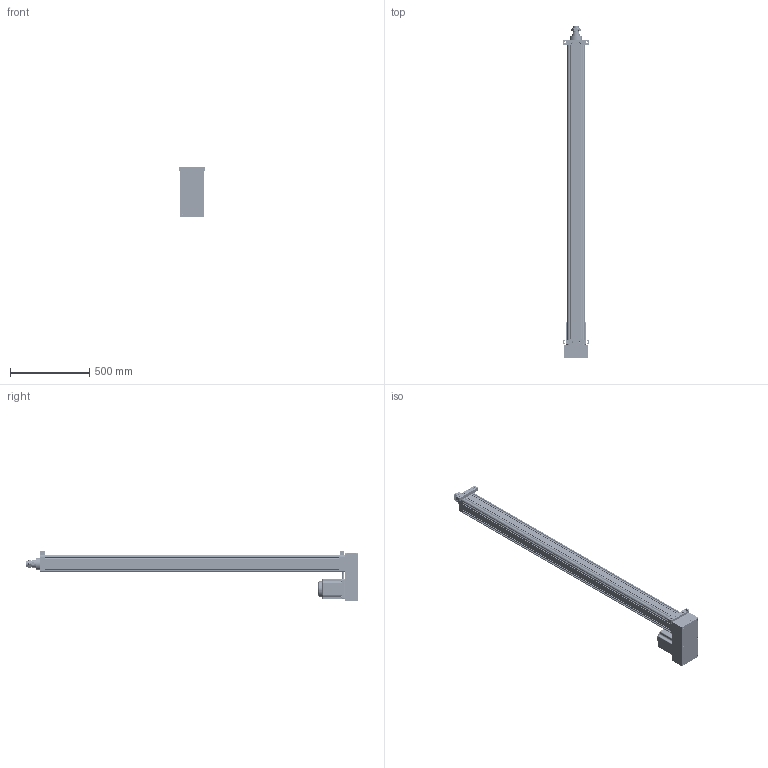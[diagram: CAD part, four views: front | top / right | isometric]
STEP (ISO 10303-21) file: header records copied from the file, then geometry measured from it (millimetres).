
FILE_DESCRIPTION((''),'2;1');
FILE_NAME('HE100-D-P_ASM','2020-05-06T',('ASUS20200'),(''),'CREO PARAMETRIC BY PTC INC, 2014190','CREO PARAMETRIC BY PTC INC, 2014190','');
FILE_SCHEMA(('CONFIG_CONTROL_DESIGN'));
Products named in the file (46): HE100-D-P-001-X1; HE100-D-P-002-X1; HE100-D-P-003-X1; 30305J; SFNHR03205B1-001-X1; SFNHR03205B1-002-X1; SFNHR03205B1-ST_ASM; HE100-D-P-004-X1; HE100-D-P-006-X1; HE100-D-P-007-X2; HE100-D-P-007-X1-2; M3X8-PB; HE100-D-P-HST_ASM; HE100-D-P-005-X1; TD-8; M8X30; LGLM-M10-25; K-M25X1-5P-36; JX6X6X30; JDB506030; HE80-D-P-008-X1; SLM-01; YZ-M6X1; HE100-GT2535-17; HE100-100-D-P-X1_ASM; HE100-P-010-X1-130N; 130ST-M10010; HE100-P-S8M300-32-20K6; HE100-P-012-X1; M10X25; HE100-P-009-X1-130N; HE100-P-013-X1-130N; M8X35; M8X75; LM-M8-7-5; HE100-P-S8M300-32-40; HE100-P-S8M-576-30; M10X1-25-40; LM-M10-30; LM-M10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
Assembly tree (91 placements, depth 4):
  HE100-D-P_ASM
    HE100-100-D-P-X1_ASM
      HE100-D-P-001-X1
      HE100-D-P-002-X1
      HE100-D-P-003-X1
      30305J  x2
      SFNHR03205B1-ST_ASM
        SFNHR03205B1-001-X1
        SFNHR03205B1-002-X1
      HE100-D-P-HST_ASM
        HE100-D-P-004-X1
        HE100-D-P-006-X1
        HE100-D-P-007-X2
        HE100-D-P-007-X1-2
        M3X8-PB  x5
      HE100-D-P-005-X1
      TD-8  x6
      M8X30  x6
      LGLM-M10-25  x8
      K-M25X1-5P-36
      JX6X6X30
      JDB506030
      HE80-D-P-008-X1
      SLM-01
      YZ-M6X1
      HE100-GT2535-17
    HE100-P-010-X1-130N
    130ST-M10010
    HE100-P-S8M300-32-20K6
    HE100-P-012-X1
    M10X25  x4
    HE100-P-009-X1-130N
    HE100-P-013-X1-130N
    TD-8  x4
    M8X35  x4
    M8X75  x6
    LM-M8-7-5  x4
    HE100-P-S8M300-32-40
    HE100-P-S8M-576-30
    M10X1-25-40
    LM-M10-30
    LM-M10
    Z21-22-40
    HE100-D-P-015-X1
    HE100-D-P-016-X1
    TD-10  x4
    M10X35  x4
Bounding box: 165 x 2094 x 315 mm (x, y, z)
Volume: 13636265.1 mm3; surface area: 3859281.2 mm2
Topology: 88 solids, 148 shells, 4681 faces, 11384 edges, 7026 vertices
Faces by surface type: cylinder 1731, plane 1654, cone 1023, torus 196, sphere 50, bspline 27
Entity records: 119947 total; most frequent: CARTESIAN_POINT 29035, DIRECTION 20451, ORIENTED_EDGE 17850, EDGE_CURVE 9042, AXIS2_PLACEMENT_3D 8164, VERTEX_POINT 5611, CIRCLE 4292, VECTOR 4123
